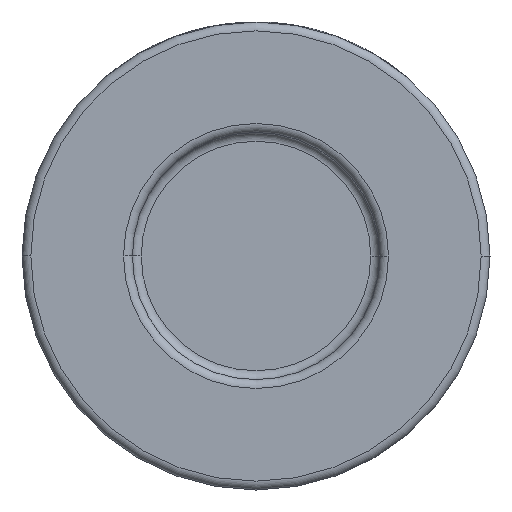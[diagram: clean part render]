
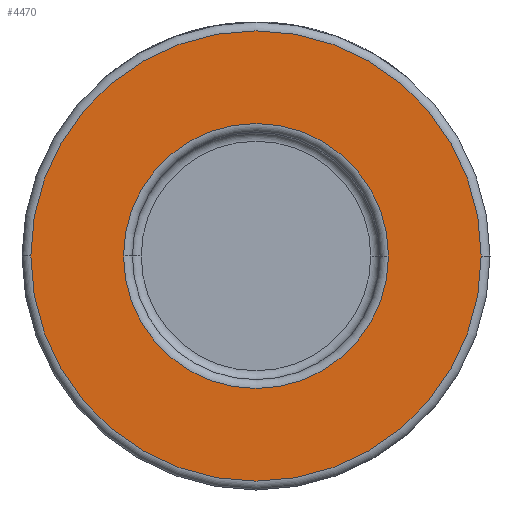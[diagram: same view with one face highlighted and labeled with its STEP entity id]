
A CAD part, front view. The second image highlights one B-rep face of the part: STEP entity #4470.
In plain terms, the highlighted planar face has unit normal (0, -1, 0).
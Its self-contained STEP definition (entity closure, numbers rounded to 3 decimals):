
#24 = CARTESIAN_POINT ( 'NONE',  ( -15., -20., 0. ) ) ;
#192 = EDGE_LOOP ( 'NONE', ( #1997, #2422 ) ) ;
#211 = CARTESIAN_POINT ( 'NONE',  ( 26.5, -20., 0. ) ) ;
#271 = AXIS2_PLACEMENT_3D ( 'NONE', #1296, #952, #2357 ) ;
#439 = CARTESIAN_POINT ( 'NONE',  ( 0., -20., 0. ) ) ;
#440 = CARTESIAN_POINT ( 'NONE',  ( 0., -20., 0. ) ) ;
#484 = VERTEX_POINT ( 'NONE', #1962 ) ;
#529 = FACE_OUTER_BOUND ( 'NONE', #4020, .T. ) ;
#580 = VERTEX_POINT ( 'NONE', #3035 ) ;
#591 = EDGE_CURVE ( 'NONE', #484, #580, #4291, .T. ) ;
#952 = DIRECTION ( 'NONE',  ( 0., -1., 0. ) ) ;
#1091 = CIRCLE ( 'NONE', #3653, 15. ) ;
#1276 = EDGE_CURVE ( 'NONE', #580, #484, #2178, .T. ) ;
#1296 = CARTESIAN_POINT ( 'NONE',  ( 0., -20., 0. ) ) ;
#1421 = ORIENTED_EDGE ( 'NONE', *, *, #1276, .T. ) ;
#1807 = AXIS2_PLACEMENT_3D ( 'NONE', #440, #3947, #4289 ) ;
#1898 = CARTESIAN_POINT ( 'NONE',  ( 15., -20., 0. ) ) ;
#1900 = AXIS2_PLACEMENT_3D ( 'NONE', #211, #3322, #2980 ) ;
#1962 = CARTESIAN_POINT ( 'NONE',  ( 25.5, -20., 0. ) ) ;
#1975 = PLANE ( 'NONE',  #1900 ) ;
#1997 = ORIENTED_EDGE ( 'NONE', *, *, #3300, .T. ) ;
#2058 = EDGE_CURVE ( 'NONE', #4211, #3485, #4307, .T. ) ;
#2178 = CIRCLE ( 'NONE', #1807, 25.5 ) ;
#2182 = DIRECTION ( 'NONE',  ( 0., 1., 0. ) ) ;
#2207 = DIRECTION ( 'NONE',  ( 1., 0., 0. ) ) ;
#2357 = DIRECTION ( 'NONE',  ( 1., 0., 0. ) ) ;
#2422 = ORIENTED_EDGE ( 'NONE', *, *, #2058, .T. ) ;
#2980 = DIRECTION ( 'NONE',  ( 1., 0., 0. ) ) ;
#3035 = CARTESIAN_POINT ( 'NONE',  ( -25.5, -20., 0. ) ) ;
#3154 = ORIENTED_EDGE ( 'NONE', *, *, #591, .T. ) ;
#3300 = EDGE_CURVE ( 'NONE', #3485, #4211, #1091, .T. ) ;
#3322 = DIRECTION ( 'NONE',  ( 0., -1., 0. ) ) ;
#3397 = DIRECTION ( 'NONE',  ( 0., 1., 0. ) ) ;
#3485 = VERTEX_POINT ( 'NONE', #1898 ) ;
#3568 = AXIS2_PLACEMENT_3D ( 'NONE', #439, #2182, #2207 ) ;
#3653 = AXIS2_PLACEMENT_3D ( 'NONE', #4506, #3397, #4141 ) ;
#3947 = DIRECTION ( 'NONE',  ( 0., -1., 0. ) ) ;
#3993 = FACE_BOUND ( 'NONE', #192, .T. ) ;
#4020 = EDGE_LOOP ( 'NONE', ( #3154, #1421 ) ) ;
#4141 = DIRECTION ( 'NONE',  ( 1., 0., 0. ) ) ;
#4211 = VERTEX_POINT ( 'NONE', #24 ) ;
#4289 = DIRECTION ( 'NONE',  ( 1., 0., 0. ) ) ;
#4291 = CIRCLE ( 'NONE', #271, 25.5 ) ;
#4307 = CIRCLE ( 'NONE', #3568, 15. ) ;
#4470 = ADVANCED_FACE ( 'NONE', ( #3993, #529 ), #1975, .T. ) ;
#4506 = CARTESIAN_POINT ( 'NONE',  ( 0., -20., 0. ) ) ;
